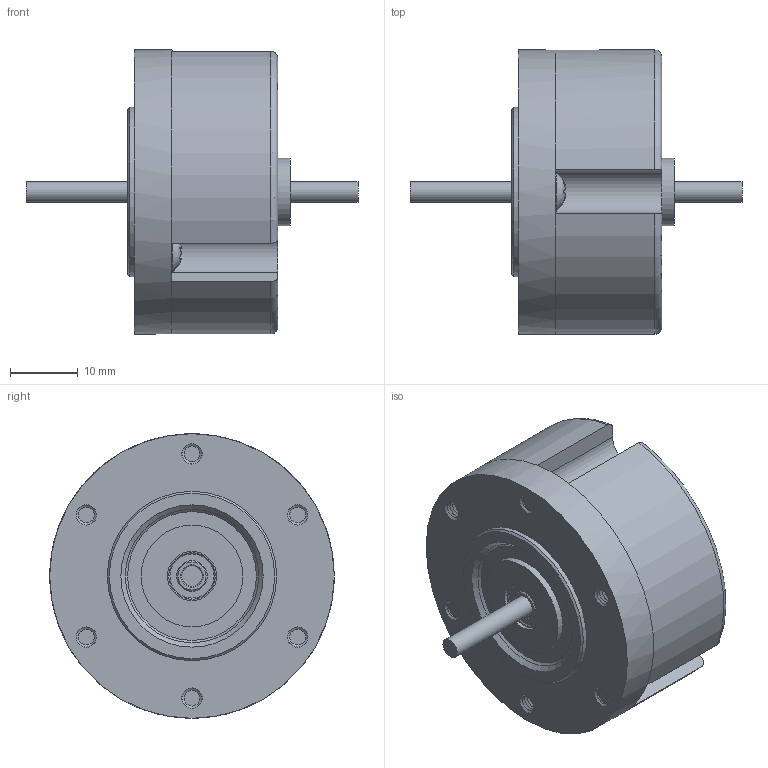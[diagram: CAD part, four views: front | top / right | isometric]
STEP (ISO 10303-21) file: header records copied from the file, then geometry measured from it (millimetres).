
FILE_DESCRIPTION((''),'1');
FILE_NAME('//Ha8000fs/isc/生産本部/ユニット部/図庫/国内ﾕﾆｯﾄ/ｴﾝﾙｰﾄ(ｲｰﾑｽﾞﾗﾎﾞ・ｱﾄﾗｯｸﾗﾎﾞ)/ﾄﾗｸｼｮﾝﾄﾞﾗｲﾌﾞ/ホームページ', '2021-04-19T04:20:46',(''), (''), 'KCM Version 1.1.1442.0', 'Kubotek KeyCreator', '');
FILE_SCHEMA(('AUTOMOTIVE_DESIGN'));
Length unit declared in the file: millimetre
Bounding box: 49 x 42 x 42 mm (x, y, z)
Surface area: 7477.8 mm2 (no closed solid volume)
Topology: 0 solids, 295 shells, 295 faces, 1285 edges, 1112 vertices
Faces by surface type: cone 150, plane 77, cylinder 62, bspline 3, torus 3
Full cylindrical faces by diameter (mm): 3 x5, 3.5 x6, 5.7 x3, 7.25 x1, 7.5 x1, 10 x1, 15 x1, 25 x1, 42 x1
Entity records: 14630 total; most frequent: CARTESIAN_POINT 3874, DIRECTION 2412, ORIENTED_EDGE 1458, EDGE_CURVE 1285, VERTEX_POINT 1110, AXIS2_PLACEMENT_3D 989, CIRCLE 621, VECTOR 434
